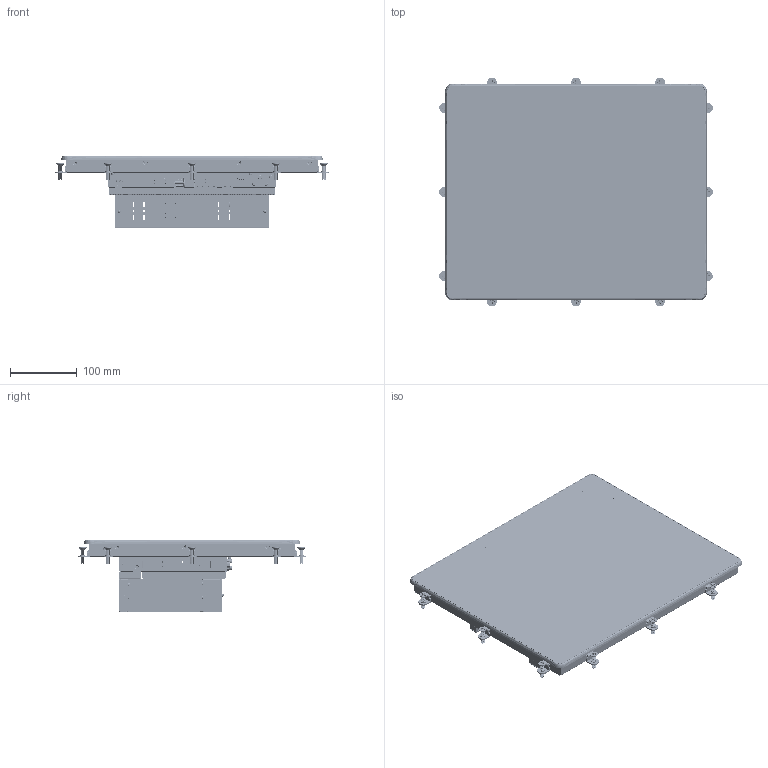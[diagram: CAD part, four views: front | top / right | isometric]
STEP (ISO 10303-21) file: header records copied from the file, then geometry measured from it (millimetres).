
FILE_DESCRIPTION((''),'2;1');
FILE_NAME('NP4C-170-Z','2026-06-02T10:42:54',('gijyu181'),(''),'CREO PARAMETRIC BY PTC INC, 2018050','CREO PARAMETRIC BY PTC INC, 2018050','');
FILE_SCHEMA(('CONFIG_CONTROL_DESIGN','SHAPE_APPEARANCE_LAYERS_GROUPS'));
Products named in the file (1): NP4C-170-Z
Bounding box: 410.1 x 342.6 x 108.1 mm (x, y, z)
Volume: 2318593.6 mm3; surface area: 1444340.6 mm2
Topology: 41 solids, 134 shells, 36823 faces, 106922 edges, 70481 vertices
Faces by surface type: plane 24715, cylinder 8964, extrusion 1414, bspline 626, cone 616, torus 333, sphere 139, revolution 16
Entity records: 1488322 total; most frequent: CARTESIAN_POINT 346987, ORIENTED_EDGE 212771, DIRECTION 189358, EDGE_CURVE 106832, VECTOR 82838, LINE 81424, VERTEX_POINT 70482, AXIS2_PLACEMENT_3D 53252
